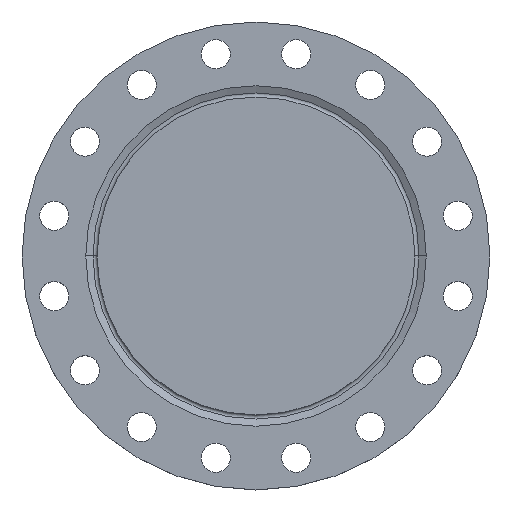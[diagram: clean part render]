
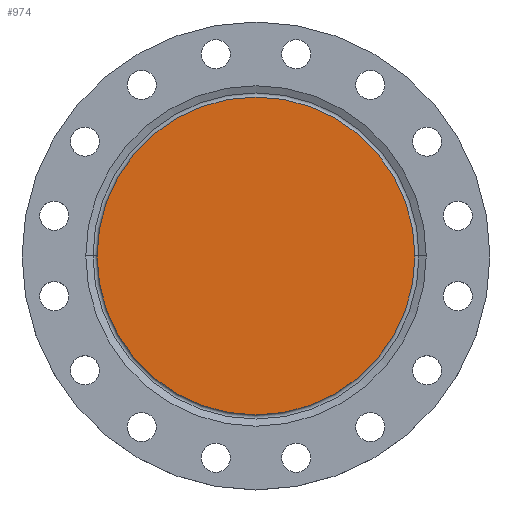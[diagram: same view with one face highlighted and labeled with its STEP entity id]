
A CAD part, top view. The second image highlights one B-rep face of the part: STEP entity #974.
In plain terms, the highlighted planar face has unit normal (0, 0, 1).
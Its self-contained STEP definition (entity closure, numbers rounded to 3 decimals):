
#64 = ORIENTED_EDGE ( 'NONE', *, *, #927, .F. ) ;
#220 = AXIS2_PLACEMENT_3D ( 'NONE', #891, #1470, #831 ) ;
#352 = CIRCLE ( 'NONE', #576, 197. ) ;
#425 = DIRECTION ( 'NONE',  ( 0., 0., -1. ) ) ;
#576 = AXIS2_PLACEMENT_3D ( 'NONE', #1075, #425, #996 ) ;
#667 = VERTEX_POINT ( 'NONE', #1375 ) ;
#776 = AXIS2_PLACEMENT_3D ( 'NONE', #1638, #1300, #1284 ) ;
#778 = EDGE_LOOP ( 'NONE', ( #1572, #64 ) ) ;
#831 = DIRECTION ( 'NONE',  ( 1., 0., 0. ) ) ;
#891 = CARTESIAN_POINT ( 'NONE',  ( 0., 0., 0. ) ) ;
#927 = EDGE_CURVE ( 'NONE', #667, #1412, #1329, .T. ) ;
#974 = ADVANCED_FACE ( 'NONE', ( #1437 ), #1152, .T. ) ;
#990 = CARTESIAN_POINT ( 'NONE',  ( -197., 0., 0. ) ) ;
#996 = DIRECTION ( 'NONE',  ( -1., 0., 0. ) ) ;
#1075 = CARTESIAN_POINT ( 'NONE',  ( 0., 0., 0. ) ) ;
#1152 = PLANE ( 'NONE',  #220 ) ;
#1284 = DIRECTION ( 'NONE',  ( -1., 0., 0. ) ) ;
#1300 = DIRECTION ( 'NONE',  ( 0., 0., -1. ) ) ;
#1329 = CIRCLE ( 'NONE', #776, 197. ) ;
#1375 = CARTESIAN_POINT ( 'NONE',  ( 197., 0., 0. ) ) ;
#1397 = EDGE_CURVE ( 'NONE', #1412, #667, #352, .T. ) ;
#1412 = VERTEX_POINT ( 'NONE', #990 ) ;
#1437 = FACE_OUTER_BOUND ( 'NONE', #778, .T. ) ;
#1470 = DIRECTION ( 'NONE',  ( 0., 0., 1. ) ) ;
#1572 = ORIENTED_EDGE ( 'NONE', *, *, #1397, .F. ) ;
#1638 = CARTESIAN_POINT ( 'NONE',  ( 0., 0., 0. ) ) ;
